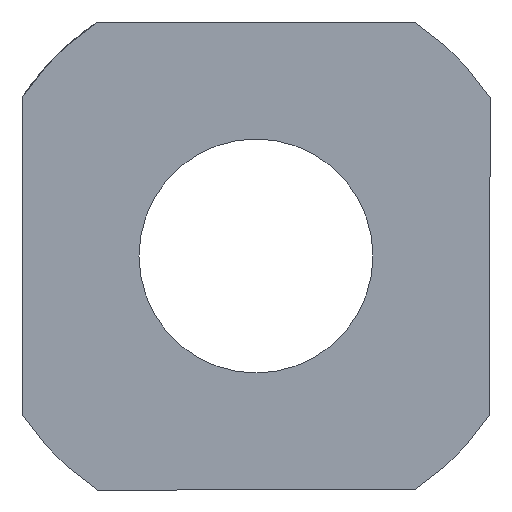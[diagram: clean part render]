
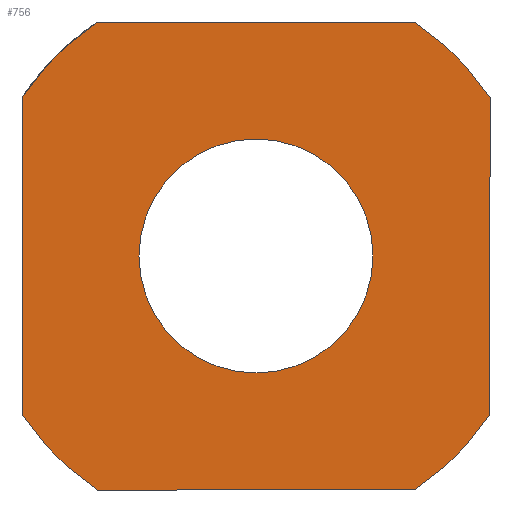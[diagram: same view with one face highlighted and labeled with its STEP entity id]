
A CAD part, left-side view. The second image highlights one B-rep face of the part: STEP entity #756.
In plain terms, the highlighted planar face has unit normal (-1, 0, 0).
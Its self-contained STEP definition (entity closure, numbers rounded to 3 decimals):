
#396=CARTESIAN_POINT('',(0.0,4.07,6.));
#397=VERTEX_POINT('',#396);
#404=CARTESIAN_POINT('',(0.0,-4.07,6.));
#405=VERTEX_POINT('',#404);
#406=CARTESIAN_POINT('',(0.0,-4.07,6.));
#407=DIRECTION('',(0.0,1.0,0.0));
#408=VECTOR('',#407,8.139);
#409=LINE('',#406,#408);
#410=EDGE_CURVE('',#405,#397,#409,.T.);
#444=CARTESIAN_POINT('',(0.0,6.,4.07));
#445=VERTEX_POINT('',#444);
#452=CARTESIAN_POINT('',(0.0,0.0,0.0));
#453=DIRECTION('',(1.0,0.0,0.0));
#454=DIRECTION('',(0.0,1.0,0.0));
#455=AXIS2_PLACEMENT_3D('',#452,#453,#454);
#456=CIRCLE('',#455,7.25);
#457=EDGE_CURVE('',#445,#397,#456,.T.);
#500=CARTESIAN_POINT('',(0.0,-3.,0.0));
#501=VERTEX_POINT('',#500);
#502=CARTESIAN_POINT('',(0.0,0.0,0.0));
#503=DIRECTION('',(1.0,0.0,0.0));
#504=DIRECTION('',(0.0,-1.0,0.0));
#505=AXIS2_PLACEMENT_3D('',#502,#503,#504);
#506=CIRCLE('',#505,3.);
#507=EDGE_CURVE('',#501,#501,#506,.T.);
#527=CARTESIAN_POINT('',(0.0,-4.07,-6.));
#528=VERTEX_POINT('',#527);
#535=CARTESIAN_POINT('',(0.0,4.07,-6.));
#536=VERTEX_POINT('',#535);
#537=CARTESIAN_POINT('',(0.0,4.07,-6.));
#538=DIRECTION('',(0.0,-1.0,0.0));
#539=VECTOR('',#538,8.139);
#540=LINE('',#537,#539);
#541=EDGE_CURVE('',#536,#528,#540,.T.);
#567=CARTESIAN_POINT('',(0.0,-6.,4.07));
#568=VERTEX_POINT('',#567);
#575=CARTESIAN_POINT('',(0.0,-6.,-4.07));
#576=VERTEX_POINT('',#575);
#577=CARTESIAN_POINT('',(0.0,-6.,-4.07));
#578=DIRECTION('',(0.0,0.0,1.0));
#579=VECTOR('',#578,8.139);
#580=LINE('',#577,#579);
#581=EDGE_CURVE('',#576,#568,#580,.T.);
#614=CARTESIAN_POINT('',(0.0,6.,-4.07));
#615=VERTEX_POINT('',#614);
#622=CARTESIAN_POINT('',(0.0,6.,4.07));
#623=DIRECTION('',(0.0,0.0,-1.0));
#624=VECTOR('',#623,8.139);
#625=LINE('',#622,#624);
#626=EDGE_CURVE('',#445,#615,#625,.T.);
#638=CARTESIAN_POINT('',(0.0,0.0,0.0));
#639=DIRECTION('',(1.0,0.0,0.0));
#640=DIRECTION('',(0.0,1.0,0.0));
#641=AXIS2_PLACEMENT_3D('',#638,#639,#640);
#642=CIRCLE('',#641,7.25);
#643=EDGE_CURVE('',#536,#615,#642,.T.);
#670=CARTESIAN_POINT('',(0.0,0.0,0.0));
#671=DIRECTION('',(1.0,0.0,0.0));
#672=DIRECTION('',(0.0,1.0,0.0));
#673=AXIS2_PLACEMENT_3D('',#670,#671,#672);
#674=CIRCLE('',#673,7.25);
#675=EDGE_CURVE('',#576,#528,#674,.T.);
#732=CARTESIAN_POINT('',(0.0,3.625,0.0));
#733=DIRECTION('',(-1.0,0.0,0.0));
#734=DIRECTION('',(0.0,0.0,1.0));
#735=AXIS2_PLACEMENT_3D('',#732,#733,#734);
#736=PLANE('',#735);
#737=ORIENTED_EDGE('',*,*,#410,.T.);
#738=ORIENTED_EDGE('',*,*,#457,.F.);
#739=ORIENTED_EDGE('',*,*,#626,.T.);
#740=ORIENTED_EDGE('',*,*,#643,.F.);
#741=ORIENTED_EDGE('',*,*,#541,.T.);
#742=ORIENTED_EDGE('',*,*,#675,.F.);
#743=ORIENTED_EDGE('',*,*,#581,.T.);
#744=CARTESIAN_POINT('',(0.0,0.0,0.0));
#745=DIRECTION('',(1.0,0.0,0.0));
#746=DIRECTION('',(0.0,1.0,0.0));
#747=AXIS2_PLACEMENT_3D('',#744,#745,#746);
#748=CIRCLE('',#747,7.25);
#749=EDGE_CURVE('',#405,#568,#748,.T.);
#750=ORIENTED_EDGE('',*,*,#749,.F.);
#751=EDGE_LOOP('',(#737,#738,#739,#740,#741,#742,#743,#750));
#752=FACE_OUTER_BOUND('',#751,.T.);
#753=ORIENTED_EDGE('',*,*,#507,.T.);
#754=EDGE_LOOP('',(#753));
#755=FACE_BOUND('',#754,.T.);
#756=ADVANCED_FACE('',(#752,#755),#736,.T.);
